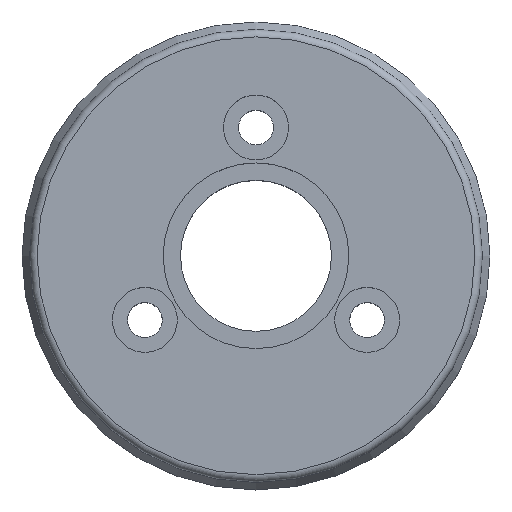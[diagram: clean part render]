
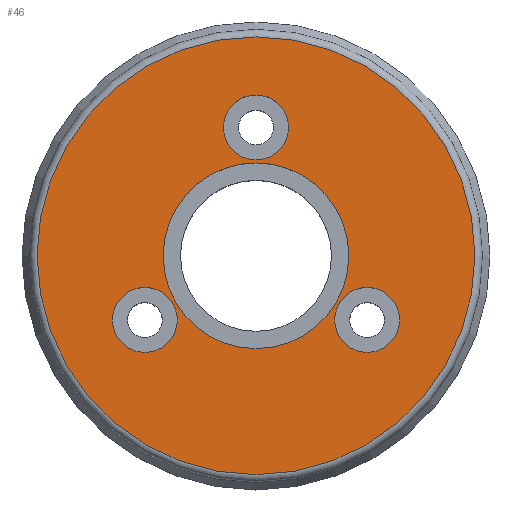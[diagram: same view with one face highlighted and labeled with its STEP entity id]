
A CAD part, top view. The second image highlights one B-rep face of the part: STEP entity #46.
In plain terms, the highlighted planar face has unit normal (0, 0, 1).
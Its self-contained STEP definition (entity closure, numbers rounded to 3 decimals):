
#46=ADVANCED_FACE('',(#71,#72,#73,#74,#75),#65,.T.);
#65=PLANE('',#334);
#71=FACE_BOUND('',#115,.T.);
#72=FACE_BOUND('',#116,.T.);
#73=FACE_BOUND('',#117,.T.);
#74=FACE_BOUND('',#118,.T.);
#75=FACE_BOUND('',#119,.T.);
#115=EDGE_LOOP('',(#159));
#116=EDGE_LOOP('',(#160));
#117=EDGE_LOOP('',(#161));
#118=EDGE_LOOP('',(#162));
#119=EDGE_LOOP('',(#163));
#159=ORIENTED_EDGE('',*,*,#225,.T.);
#160=ORIENTED_EDGE('',*,*,#226,.T.);
#161=ORIENTED_EDGE('',*,*,#227,.T.);
#162=ORIENTED_EDGE('',*,*,#228,.T.);
#163=ORIENTED_EDGE('',*,*,#229,.T.);
#203=VERTEX_POINT('',#475);
#204=VERTEX_POINT('',#477);
#205=VERTEX_POINT('',#479);
#206=VERTEX_POINT('',#481);
#207=VERTEX_POINT('',#483);
#225=EDGE_CURVE('',#203,#203,#251,.T.);
#226=EDGE_CURVE('',#204,#204,#252,.T.);
#227=EDGE_CURVE('',#205,#205,#253,.T.);
#228=EDGE_CURVE('',#206,#206,#254,.T.);
#229=EDGE_CURVE('',#207,#207,#255,.T.);
#251=CIRCLE('',#329,14.5);
#252=CIRCLE('',#330,2.15);
#253=CIRCLE('',#331,6.15);
#254=CIRCLE('',#332,2.15);
#255=CIRCLE('',#333,2.15);
#329=AXIS2_PLACEMENT_3D('',#474,#383,#384);
#330=AXIS2_PLACEMENT_3D('',#476,#385,#386);
#331=AXIS2_PLACEMENT_3D('',#478,#387,#388);
#332=AXIS2_PLACEMENT_3D('',#480,#389,#390);
#333=AXIS2_PLACEMENT_3D('',#482,#391,#392);
#334=AXIS2_PLACEMENT_3D('',#484,#393,#394);
#383=DIRECTION('',(0.,0.,1.));
#384=DIRECTION('',(1.,0.,0.));
#385=DIRECTION('',(0.,0.,-1.));
#386=DIRECTION('',(0.866,0.5,0.));
#387=DIRECTION('',(0.,0.,-1.));
#388=DIRECTION('',(-1.,0.,0.));
#389=DIRECTION('',(0.,0.,-1.));
#390=DIRECTION('',(0.,-1.,0.));
#391=DIRECTION('',(0.,0.,-1.));
#392=DIRECTION('',(-0.866,0.5,0.));
#393=DIRECTION('',(0.,0.,1.));
#394=DIRECTION('',(1.,0.,0.));
#474=CARTESIAN_POINT('',(0.,0.,9.8));
#475=CARTESIAN_POINT('',(14.5,0.,9.8));
#476=CARTESIAN_POINT('',(-7.361,-4.25,9.8));
#477=CARTESIAN_POINT('',(-5.499,-3.175,9.8));
#478=CARTESIAN_POINT('',(0.,0.,9.8));
#479=CARTESIAN_POINT('',(-6.15,0.,9.8));
#480=CARTESIAN_POINT('',(0.,8.5,9.8));
#481=CARTESIAN_POINT('',(0.,6.35,9.8));
#482=CARTESIAN_POINT('',(7.361,-4.25,9.8));
#483=CARTESIAN_POINT('',(5.499,-3.175,9.8));
#484=CARTESIAN_POINT('',(0.,0.,9.8));
